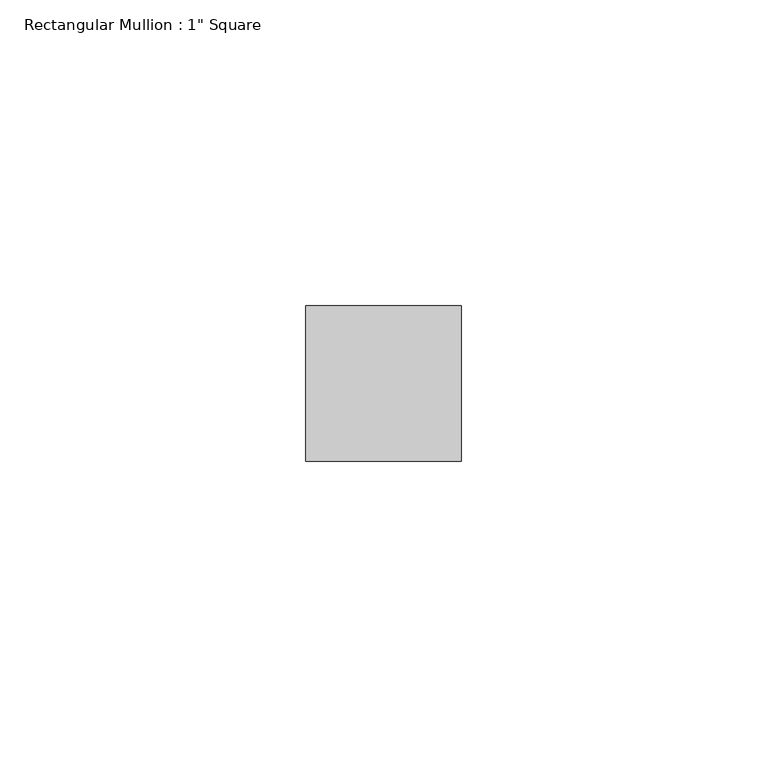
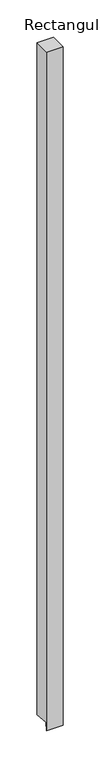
"""IFC4 building model written with IfcOpenShell, lengths in millimetres: member geometry."""

from ifc_helpers import new_model, si_unit, frame, origin, place, context, project, spatial, polyline, outline, extrude, source, transform, mapped, element, save


def member_934386c6(model_context):
    return source(origin(), model_context, "Body", "SweptSolid", [
        extrude(outline(polyline([(-12.7, 0.0), (12.7, 0.0), (12.7, -1101.9503723), (-11.2061787, -1099.2705575), (-12.7, -1112.5966871), (-12.7, 0.0)])), frame((-25.4, 0.0, 0.0), z_axis=(1.0, 0.0, 0.0), x_axis=(0.0, 1.0, 0.0)), (0.0, 0.0, 1.0), 25.4),
    ])


if __name__ == "__main__":
    model = new_model("IFC4")
    model_context = context("Model", 3, world=origin())
    ifc_project = project(units=[si_unit("LENGTHUNIT", "METRE", prefix="MILLI")], contexts=[model_context])
    site = spatial("IfcSite", under=ifc_project)
    building = spatial("IfcBuilding", under=site)
    placement = place(None, origin())
    member_shape = member_934386c6(model_context)
    element("IfcMember", 1, ObjectType="Rectangular Mullion : 1\" Square", at=placement, inside=building, context=model_context, shape_type="MappedRepresentation", body=[
        mapped(member_shape, transform((0.0, 0.0, 0.0), x_axis=(1.0, 0.0, 0.0), y_axis=(0.0, 1.0, 0.0), z_axis=(0.0, 0.0, 1.0))),
    ])
    save(model, "model.ifc")
